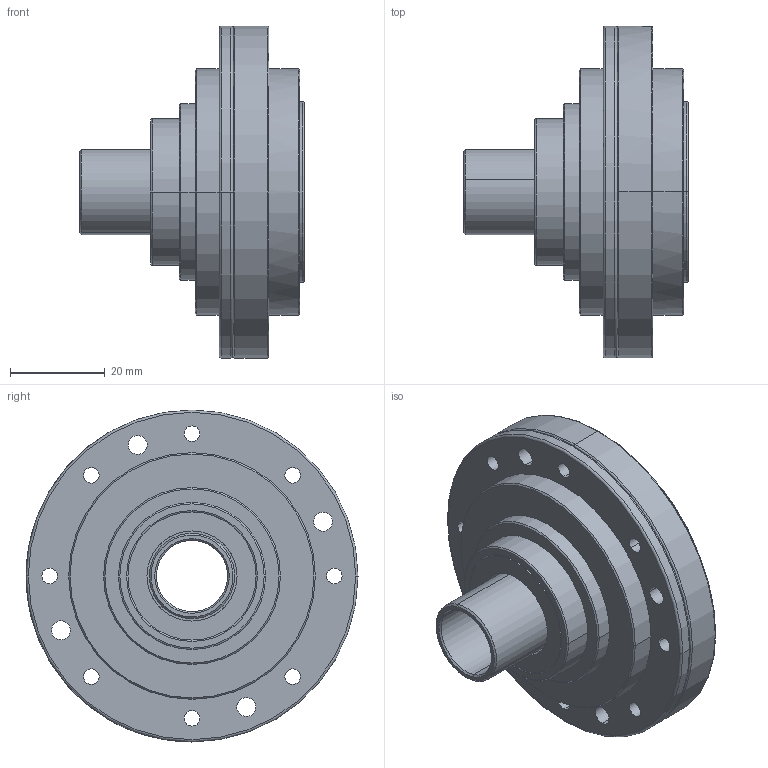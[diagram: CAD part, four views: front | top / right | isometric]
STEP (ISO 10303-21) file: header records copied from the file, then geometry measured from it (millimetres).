
FILE_DESCRIPTION (( 'STEP AP203' ), '1' );
FILE_NAME ('14（70）.ST', '2025-06-26T00:36:07', ( '' ), ( '' ), 'SwSTEP 2.0', 'SolidWorks 2024', '' );
FILE_SCHEMA (( 'CONFIG_CONTROL_DESIGN' ));
Length unit declared in the file: millimetre
Products named in the file (1): 14（70）
Bounding box: 47.4 x 70 x 70 mm (x, y, z)
Volume: 41445.9 mm3; surface area: 38406.3 mm2
Topology: 56 solids, 56 shells, 663 faces, 1435 edges, 894 vertices
Faces by surface type: cylinder 245, cone 155, plane 119, torus 107, bspline 37
Entity records: 21353 total; most frequent: CARTESIAN_POINT 6906, DIRECTION 3140, ORIENTED_EDGE 2870, EDGE_CURVE 1435, AXIS2_PLACEMENT_3D 1393, VERTEX_POINT 894, CIRCLE 766, EDGE_LOOP 759
